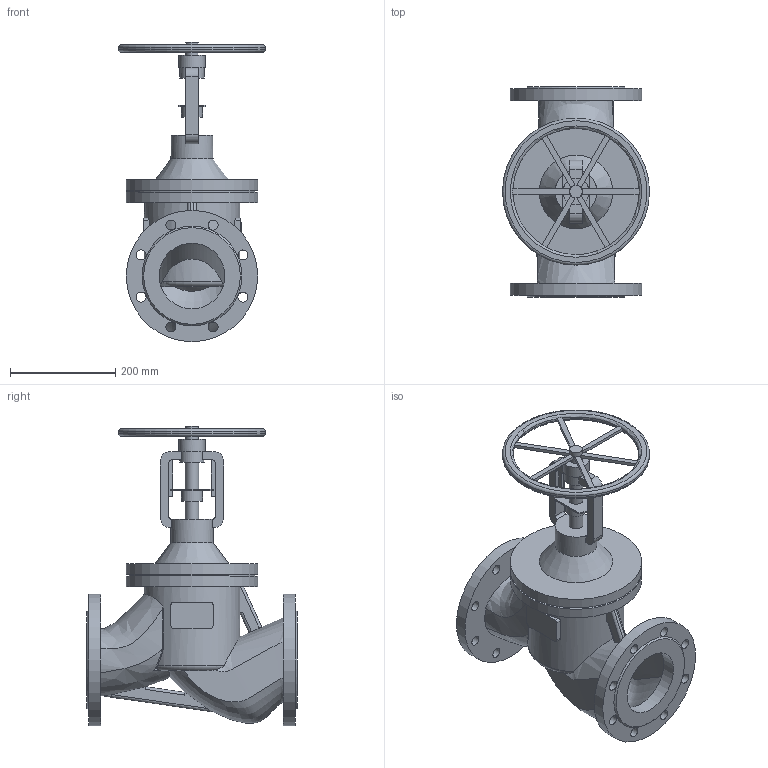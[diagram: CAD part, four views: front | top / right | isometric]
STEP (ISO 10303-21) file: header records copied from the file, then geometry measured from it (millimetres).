
FILE_DESCRIPTION(('STEP AP203'), '1');
FILE_NAME('Êëàïàí çàïîðíî-ðåãóëèðóþùèé BV2F DN125', '2026-09-22T07:52:30', ('Ýíåðãèÿ'), (''), 'ASCON STEP Converter 1.6', 'ASCON Math Kernel', '');
FILE_SCHEMA(('CONFIG_CONTROL_DESIGN'));
Length unit declared in the file: millimetre
Bounding box: 280 x 400 x 570 mm (x, y, z)
Volume: 10455379.7 mm3; surface area: 848391.7 mm2
Topology: 1 solids, 2 shells, 248 faces, 678 edges, 445 vertices
Faces by surface type: plane 128, cylinder 83, bspline 27, torus 7, cone 3
Full cylindrical faces by diameter (mm): 19 x16, 24 x1, 26 x2, 40 x1, 46 x1, 50 x1, 80 x1, 125 x1, 182 x1, 240 x1, 250 x4, 280 x1
Entity records: 27716 total; most frequent: CARTESIAN_POINT 19683, ORIENTED_EDGE 1276, DIRECTION 1122, EDGE_CURVE 638, VERTEX_POINT 445, AXIS2_PLACEMENT_3D 430, EDGE_LOOP 351, FACE_BOUND 282
